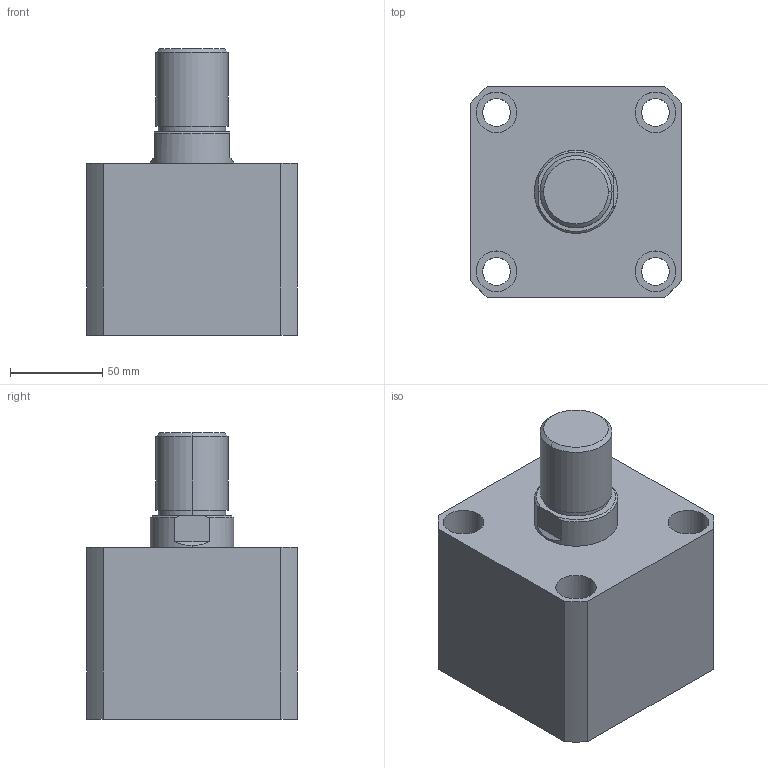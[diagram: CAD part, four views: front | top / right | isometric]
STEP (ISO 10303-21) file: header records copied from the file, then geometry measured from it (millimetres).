
FILE_DESCRIPTION (( 'STEP AP203' ), '1' );
FILE_NAME ('HTB-SDMB80-15W.STEP', '2019-10-09T05:58:57', ( '微软用户' ), ( '微软中国' ), 'SwSTEP 2.0', 'SolidWorks 2012', '' );
FILE_SCHEMA (( 'CONFIG_CONTROL_DESIGN' ));
Length unit declared in the file: millimetre
Products named in the file (3): HTB-SDMB80-15W; HTB-SDMB80-15掛极; HTB-SDMB80-15W活塞杆
Assembly tree (2 placements, depth 2):
  HTB-SDMB80-15W
    HTB-SDMB80-15掛极
    HTB-SDMB80-15W活塞杆
Bounding box: 114 x 114 x 155 mm (x, y, z)
Volume: 1130702.3 mm3; surface area: 140723.4 mm2
Topology: 2 solids, 2 shells, 141 faces, 337 edges, 222 vertices
Faces by surface type: plane 67, cylinder 48, bspline 16, torus 6, cone 4
Entity records: 5180 total; most frequent: CARTESIAN_POINT 1597, ORIENTED_EDGE 674, DIRECTION 669, EDGE_CURVE 337, AXIS2_PLACEMENT_3D 242, VERTEX_POINT 222, LINE 185, VECTOR 185
